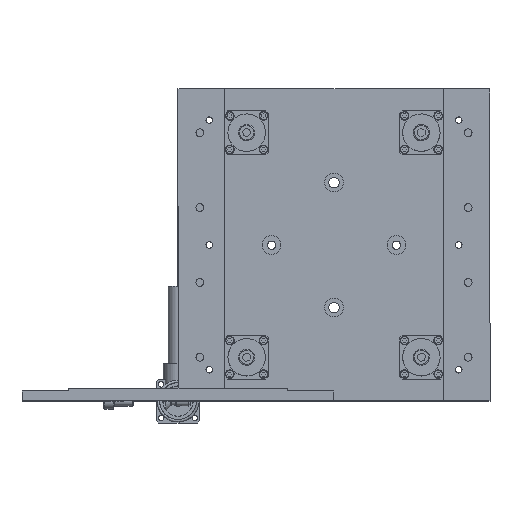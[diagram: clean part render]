
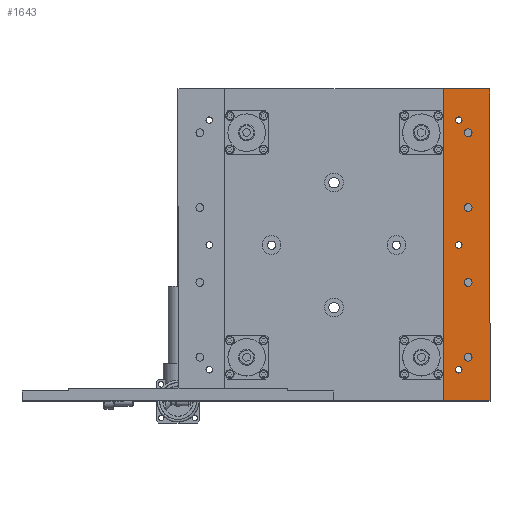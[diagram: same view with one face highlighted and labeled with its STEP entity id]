
A CAD part, top view. The second image highlights one B-rep face of the part: STEP entity #1643.
In plain terms, the highlighted planar face has unit normal (0, 0, 1) as drawn and (0, 1, 0) by its records, which use the part's own axes.
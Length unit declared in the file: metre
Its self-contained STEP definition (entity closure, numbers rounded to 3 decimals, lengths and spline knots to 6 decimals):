
#1643 = ADVANCED_FACE( '', ( #3260, #3261, #3262, #3263, #3264, #3265, #3266, #3267 ), #3268, .F. );
#3260 = FACE_BOUND( '', #6513, .T. );
#3261 = FACE_BOUND( '', #6514, .T. );
#3262 = FACE_BOUND( '', #6515, .T. );
#3263 = FACE_BOUND( '', #6516, .T. );
#3264 = FACE_BOUND( '', #6517, .T. );
#3265 = FACE_BOUND( '', #6518, .T. );
#3266 = FACE_BOUND( '', #6519, .T. );
#3267 = FACE_OUTER_BOUND( '', #6520, .T. );
#3268 = PLANE( '', #6521 );
#6513 = EDGE_LOOP( '', ( #10229 ) );
#6514 = EDGE_LOOP( '', ( #10230 ) );
#6515 = EDGE_LOOP( '', ( #10231 ) );
#6516 = EDGE_LOOP( '', ( #10232 ) );
#6517 = EDGE_LOOP( '', ( #10233 ) );
#6518 = EDGE_LOOP( '', ( #10234 ) );
#6519 = EDGE_LOOP( '', ( #10235 ) );
#6520 = EDGE_LOOP( '', ( #10236, #10237, #10238, #10239 ) );
#6521 = AXIS2_PLACEMENT_3D( '', #10240, #10241, #10242 );
#10229 = ORIENTED_EDGE( '', *, *, #12101, .T. );
#10230 = ORIENTED_EDGE( '', *, *, #12102, .T. );
#10231 = ORIENTED_EDGE( '', *, *, #12103, .T. );
#10232 = ORIENTED_EDGE( '', *, *, #12104, .T. );
#10233 = ORIENTED_EDGE( '', *, *, #12105, .F. );
#10234 = ORIENTED_EDGE( '', *, *, #12106, .F. );
#10235 = ORIENTED_EDGE( '', *, *, #12107, .F. );
#10236 = ORIENTED_EDGE( '', *, *, #12108, .T. );
#10237 = ORIENTED_EDGE( '', *, *, #12052, .T. );
#10238 = ORIENTED_EDGE( '', *, *, #12061, .F. );
#10239 = ORIENTED_EDGE( '', *, *, #12058, .F. );
#10240 = CARTESIAN_POINT( '', ( 0.0875, 0.008, -0.175 ) );
#10241 = DIRECTION( '', ( 0., -1., 0. ) );
#10242 = DIRECTION( '', ( 1., 0., 0. ) );
#12052 = EDGE_CURVE( '', #13812, #13810, #13813, .T. );
#12058 = EDGE_CURVE( '', #13821, #13823, #13824, .T. );
#12061 = EDGE_CURVE( '', #13823, #13810, #13828, .T. );
#12101 = EDGE_CURVE( '', #13906, #13906, #13907, .T. );
#12102 = EDGE_CURVE( '', #13908, #13908, #13909, .T. );
#12103 = EDGE_CURVE( '', #13910, #13910, #13911, .T. );
#12104 = EDGE_CURVE( '', #13912, #13912, #13913, .T. );
#12105 = EDGE_CURVE( '', #13914, #13914, #13915, .T. );
#12106 = EDGE_CURVE( '', #13916, #13916, #13917, .T. );
#12107 = EDGE_CURVE( '', #13918, #13918, #13919, .T. );
#12108 = EDGE_CURVE( '', #13821, #13812, #13920, .T. );
#13810 = VERTEX_POINT( '', #16379 );
#13812 = VERTEX_POINT( '', #16382 );
#13813 = LINE( '', #16383, #16384 );
#13821 = VERTEX_POINT( '', #16396 );
#13823 = VERTEX_POINT( '', #16399 );
#13824 = LINE( '', #16400, #16401 );
#13828 = LINE( '', #16407, #16408 );
#13906 = VERTEX_POINT( '', #16487 );
#13907 = CIRCLE( '', #16488, 0.0031 );
#13908 = VERTEX_POINT( '', #16489 );
#13909 = CIRCLE( '', #16490, 0.0031 );
#13910 = VERTEX_POINT( '', #16491 );
#13911 = CIRCLE( '', #16492, 0.0031 );
#13912 = VERTEX_POINT( '', #16493 );
#13913 = CIRCLE( '', #16494, 0.0031 );
#13914 = VERTEX_POINT( '', #16495 );
#13915 = CIRCLE( '', #16496, 0.0026 );
#13916 = VERTEX_POINT( '', #16497 );
#13917 = CIRCLE( '', #16498, 0.0026 );
#13918 = VERTEX_POINT( '', #16499 );
#13919 = CIRCLE( '', #16500, 0.0026 );
#13920 = LINE( '', #16501, #16502 );
#16379 = CARTESIAN_POINT( '', ( 0.125, 0.008, 0.125 ) );
#16382 = CARTESIAN_POINT( '', ( 0.0875, 0.008, 0.125 ) );
#16383 = CARTESIAN_POINT( '', ( 0.123791, 0.008, 0.125 ) );
#16384 = VECTOR( '', #18327, 1. );
#16396 = CARTESIAN_POINT( '', ( 0.0875, 0.008, -0.125 ) );
#16399 = CARTESIAN_POINT( '', ( 0.125, 0.008, -0.125 ) );
#16400 = CARTESIAN_POINT( '', ( 0.125, 0.008, -0.125 ) );
#16401 = VECTOR( '', #18333, 1. );
#16407 = CARTESIAN_POINT( '', ( 0.125, 0.008, 0.125 ) );
#16408 = VECTOR( '', #18336, 1. );
#16487 = CARTESIAN_POINT( '', ( 0.1106, 0.008, -0.09 ) );
#16488 = AXIS2_PLACEMENT_3D( '', #18452, #18453, #18454 );
#16489 = CARTESIAN_POINT( '', ( 0.1106, 0.008, 0.09 ) );
#16490 = AXIS2_PLACEMENT_3D( '', #18455, #18456, #18457 );
#16491 = CARTESIAN_POINT( '', ( 0.1106, 0.008, 0.03 ) );
#16492 = AXIS2_PLACEMENT_3D( '', #18458, #18459, #18460 );
#16493 = CARTESIAN_POINT( '', ( 0.1106, 0.008, -0.03 ) );
#16494 = AXIS2_PLACEMENT_3D( '', #18461, #18462, #18463 );
#16495 = CARTESIAN_POINT( '', ( 0.1, 0.008, -0.1026 ) );
#16496 = AXIS2_PLACEMENT_3D( '', #18464, #18465, #18466 );
#16497 = CARTESIAN_POINT( '', ( 0.1, 0.008, -0.0026 ) );
#16498 = AXIS2_PLACEMENT_3D( '', #18467, #18468, #18469 );
#16499 = CARTESIAN_POINT( '', ( 0.1, 0.008, 0.0974 ) );
#16500 = AXIS2_PLACEMENT_3D( '', #18470, #18471, #18472 );
#16501 = CARTESIAN_POINT( '', ( 0.0875, 0.008, -0.175 ) );
#16502 = VECTOR( '', #18473, 1. );
#18327 = DIRECTION( '', ( 1., 0., 0. ) );
#18333 = DIRECTION( '', ( 1., 0., 0. ) );
#18336 = DIRECTION( '', ( 0., 0., 1. ) );
#18452 = CARTESIAN_POINT( '', ( 0.1075, 0.008, -0.09 ) );
#18453 = DIRECTION( '', ( 0., -1., 0. ) );
#18454 = DIRECTION( '', ( 1., 0., 0. ) );
#18455 = CARTESIAN_POINT( '', ( 0.1075, 0.008, 0.09 ) );
#18456 = DIRECTION( '', ( 0., -1., 0. ) );
#18457 = DIRECTION( '', ( 1., 0., 0. ) );
#18458 = CARTESIAN_POINT( '', ( 0.1075, 0.008, 0.03 ) );
#18459 = DIRECTION( '', ( 0., -1., 0. ) );
#18460 = DIRECTION( '', ( 1., 0., 0. ) );
#18461 = CARTESIAN_POINT( '', ( 0.1075, 0.008, -0.03 ) );
#18462 = DIRECTION( '', ( 0., -1., 0. ) );
#18463 = DIRECTION( '', ( 1., 0., 0. ) );
#18464 = CARTESIAN_POINT( '', ( 0.1, 0.008, -0.1 ) );
#18465 = DIRECTION( '', ( 0., 1., 0. ) );
#18466 = DIRECTION( '', ( 0., 0., -1. ) );
#18467 = CARTESIAN_POINT( '', ( 0.1, 0.008, 0. ) );
#18468 = DIRECTION( '', ( 0., 1., 0. ) );
#18469 = DIRECTION( '', ( 0., 0., -1. ) );
#18470 = CARTESIAN_POINT( '', ( 0.1, 0.008, 0.1 ) );
#18471 = DIRECTION( '', ( 0., 1., 0. ) );
#18472 = DIRECTION( '', ( 0., 0., -1. ) );
#18473 = DIRECTION( '', ( 0., 0., 1. ) );
